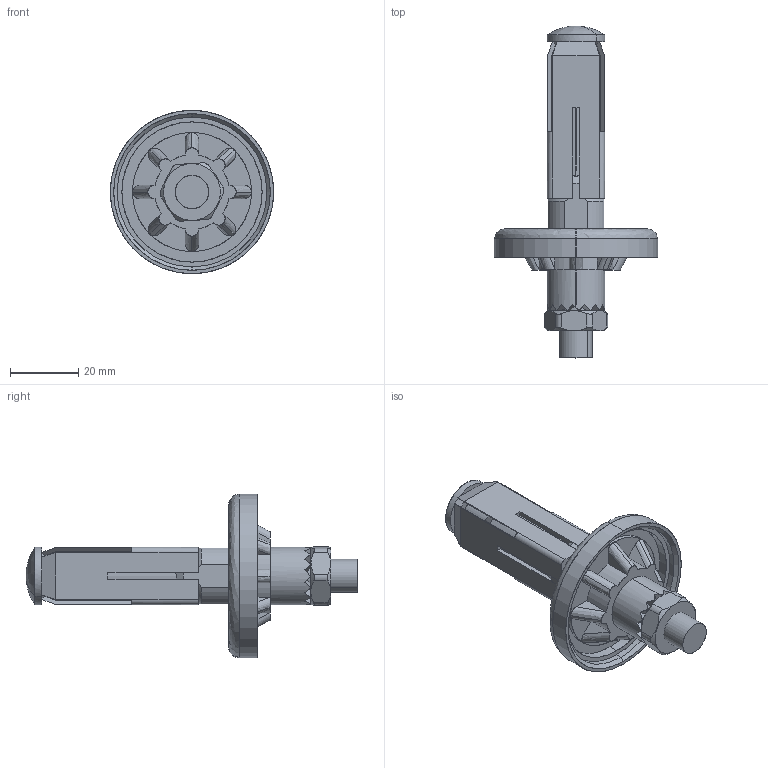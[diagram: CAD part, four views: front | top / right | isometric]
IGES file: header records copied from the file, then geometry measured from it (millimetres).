
Start section: SolidWorks IGES file using analytic representation for surfaces
Global section: file name: S:\Tyokansio\VL\300417_IGES.IGS; native system: SolidWorks 2011; preprocessor: SolidWorks 2011; author: VilleLa; date: 110620.125641; units: millimetre
Bounding box: 48 x 97.6 x 48 mm (x, y, z)
Surface area: 16842.8 mm2 (no closed solid volume)
Topology: 0 solids, 0 shells, 224 faces, 2681 edges, 2681 vertices
Faces by surface type: bspline 139, revolution 85
